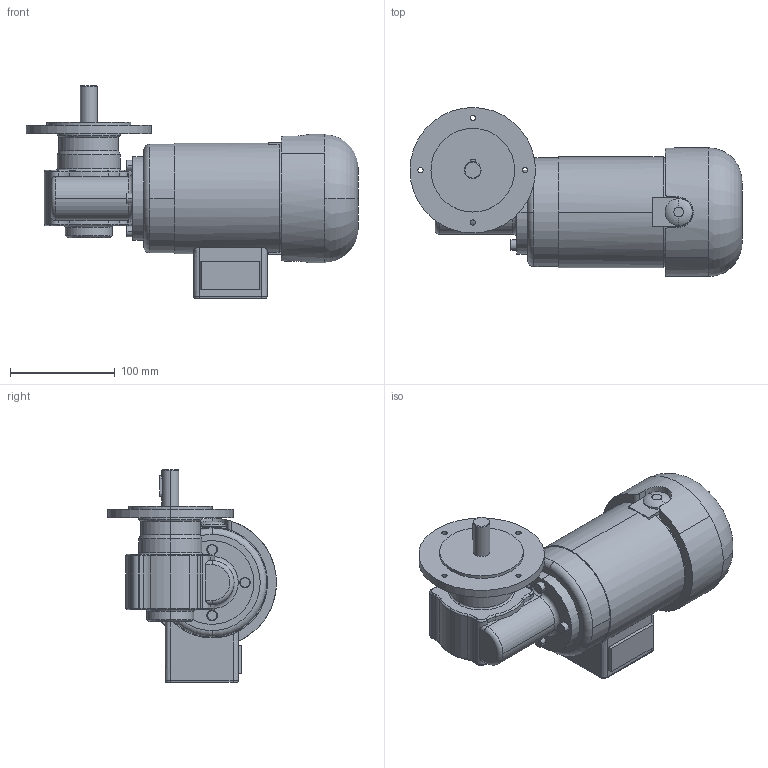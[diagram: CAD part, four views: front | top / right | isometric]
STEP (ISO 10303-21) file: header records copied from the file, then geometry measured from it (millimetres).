
FILE_DESCRIPTION(('OneSpaceDesigner STEP Export'),'2;1');
FILE_NAME('KGOG61-62_GF140_E.stp','2008-08-19T 9:03:57',(''),(''),'OneSpace Designer STEP processor (Jan. 2003) for AP214(CD)(Solid Model)','OneSpace Designer 12.01D 09-Jul-2004 (C) CoCreate Software GmbH','');
FILE_SCHEMA(('AUTOMOTIVE_DESIGN_CC2 {1 2 10303 214 -1 1 5 1}'));
Length unit declared in the file: millimetre
Products named in the file (2): KGOG61-62_GF140_E
Assembly tree (1 placements, depth 2):
  KGOG61-62_GF140_E
    KGOG61-62_GF140_E
Bounding box: 317.5 x 161.5 x 203.5 mm (x, y, z)
Volume: 2840063.7 mm3; surface area: 165828.3 mm2
Topology: 1 solids, 1 shells, 240 faces, 579 edges, 355 vertices
Faces by surface type: cylinder 97, torus 68, plane 50, cone 12, bspline 9, extrusion 4
Entity records: 11040 total; most frequent: CARTESIAN_POINT 6009, ORIENTED_EDGE 1158, DIRECTION 896, EDGE_CURVE 579, AXIS2_PLACEMENT_3D 356, VERTEX_POINT 355, EDGE_LOOP 262, FACE_OUTER_BOUND 240
